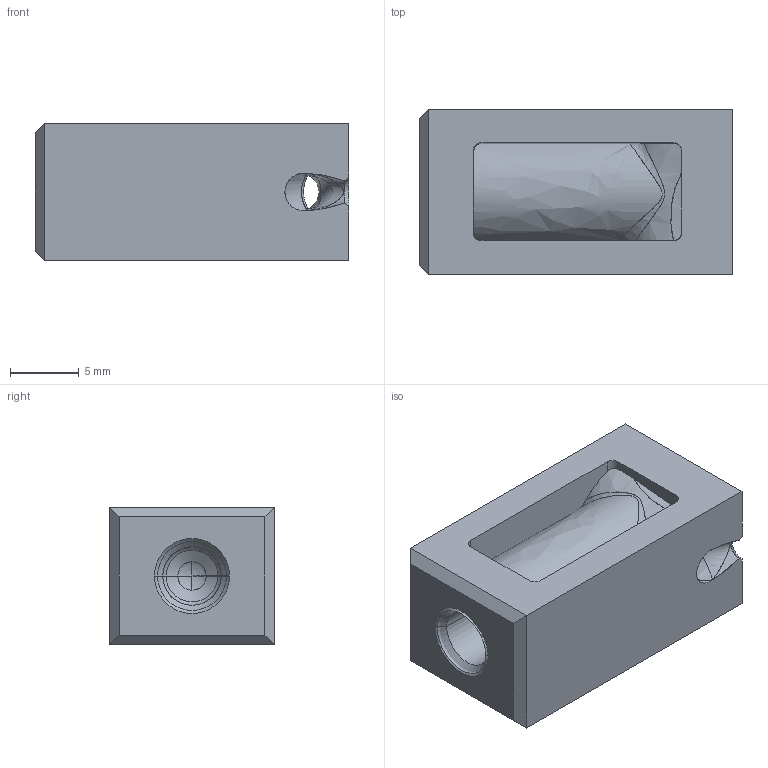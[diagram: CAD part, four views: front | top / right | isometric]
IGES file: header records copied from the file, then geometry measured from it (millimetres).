
Start section: START RECORD GO HERE.
Global section: file name: tgs12-16-s1.igs; native system: DASSAULT SYSTEMES CATIA V5 R20 - www.3ds.com; preprocessor: CATIA Version 5 Release 20 ; author: Utente; organization: NB04-ASUS; date: 20200418.083122; units: millimetre
Bounding box: 22.8 x 12 x 10 mm (x, y, z)
Surface area: 1914.2 mm2 (no closed solid volume)
Topology: 0 solids, 0 shells, 73 faces, 435 edges, 430 vertices
Faces by surface type: revolution 36, plane 22, bspline 15
